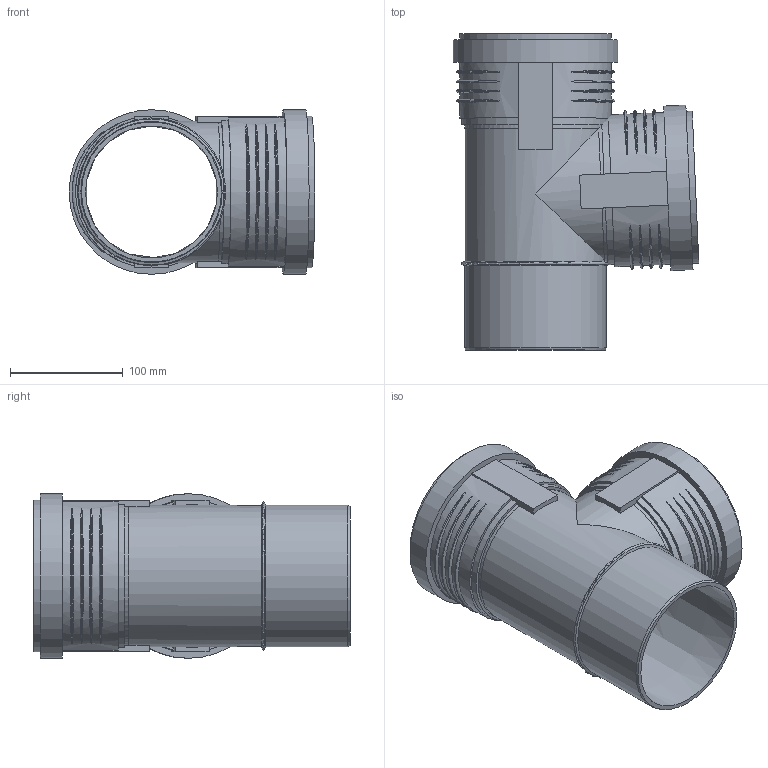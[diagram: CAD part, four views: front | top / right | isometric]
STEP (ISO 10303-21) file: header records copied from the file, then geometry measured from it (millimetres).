
FILE_DESCRIPTION(/* description */ (''),/* implementation_level */ '2;1');
FILE_NAME(/* name */ 'Z:\Geberit\Export\NewStep\390652.stp',/* time_stamp */ '2014-04-02T08:16:07+02:00',/* author */ ('ML'),/* organization */ (''),/* preprocessor_version */ 'ST-DEVELOPER v15.2',/* originating_system */ 'Autodesk Inventor 2014',/* authorisation */ '');
FILE_SCHEMA (('AUTOMOTIVE_DESIGN { 1 0 10303 214 3 1 1 }'));
Length unit declared in the file: millimetre
Products named in the file (4): 861613; 861625; 861625_1; 390652
Bounding box: 217.65 x 280.1 x 145.9 mm (x, y, z)
Volume: 655727.4 mm3; surface area: 330025 mm2
Topology: 3 solids, 3 shells, 125 faces, 312 edges, 217 vertices
Faces by surface type: torus 50, plane 37, cylinder 30, cone 8
Full cylindrical faces by diameter (mm): 116.8 x1, 117 x2, 125.2 x2, 126.4 x4, 134.6 x2, 137.7 x2, 145.9 x2
Entity records: 5284 total; most frequent: CARTESIAN_POINT 2290, ORIENTED_EDGE 566, DIRECTION 545, EDGE_CURVE 283, AXIS2_PLACEMENT_3D 236, VERTEX_POINT 211, EDGE_LOOP 180, ADVANCED_FACE 125
